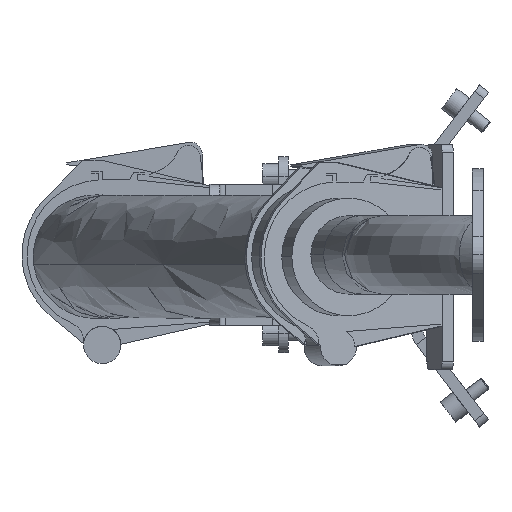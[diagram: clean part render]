
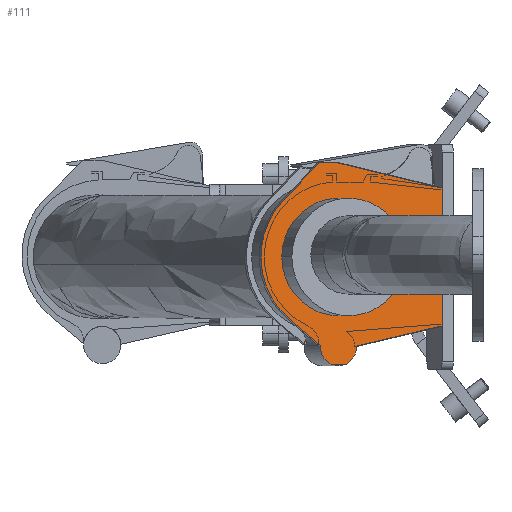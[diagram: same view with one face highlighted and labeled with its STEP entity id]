
A CAD part, left-side view. The second image highlights one B-rep face of the part: STEP entity #111.
In plain terms, the highlighted planar face has unit normal (-0.966, -0.259, 0).
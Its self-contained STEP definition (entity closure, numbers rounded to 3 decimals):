
#111 = ADVANCED_FACE ( 'NONE', ( #9734, #1788 ), #12508, .F. ) ;
#310 = ORIENTED_EDGE ( 'NONE', *, *, #11339, .F. ) ;
#658 = ORIENTED_EDGE ( 'NONE', *, *, #7273, .F. ) ;
#966 = LINE ( 'NONE', #4981, #11872 ) ;
#1073 = DIRECTION ( 'NONE',  ( -0.259, 0.966, 0. ) ) ;
#1181 = DIRECTION ( 'NONE',  ( 0.252, -0.942, 0.223 ) ) ;
#1196 = VERTEX_POINT ( 'NONE', #8875 ) ;
#1215 = LINE ( 'NONE', #5093, #4176 ) ;
#1301 = CARTESIAN_POINT ( 'NONE',  ( 1309.574, 185.556, 2172.283 ) ) ;
#1426 = CARTESIAN_POINT ( 'NONE',  ( 1316.319, 160.376, 2203.93 ) ) ;
#1538 = LINE ( 'NONE', #8136, #11689 ) ;
#1683 = ORIENTED_EDGE ( 'NONE', *, *, #10648, .F. ) ;
#1788 = FACE_BOUND ( 'NONE', #6849, .T. ) ;
#1958 = DIRECTION ( 'NONE',  ( -0.259, 0.966, 0. ) ) ;
#1984 = ORIENTED_EDGE ( 'NONE', *, *, #5225, .F. ) ;
#2150 = EDGE_CURVE ( 'NONE', #10077, #8336, #1538, .T. ) ;
#2329 = DIRECTION ( 'NONE',  ( -0.2, 0.746, 0.636 ) ) ;
#2555 = VERTEX_POINT ( 'NONE', #9729 ) ;
#2579 = CIRCLE ( 'NONE', #6517, 30. ) ;
#2594 = ORIENTED_EDGE ( 'NONE', *, *, #7910, .T. ) ;
#2624 = CARTESIAN_POINT ( 'NONE',  ( 1316.319, 160.376, 2203.93 ) ) ;
#2662 = ORIENTED_EDGE ( 'NONE', *, *, #10238, .T. ) ;
#3425 = ORIENTED_EDGE ( 'NONE', *, *, #5664, .T. ) ;
#3486 = LINE ( 'NONE', #1301, #6800 ) ;
#3573 = ORIENTED_EDGE ( 'NONE', *, *, #2150, .T. ) ;
#3755 = AXIS2_PLACEMENT_3D ( 'NONE', #12675, #3817, #10541 ) ;
#3817 = DIRECTION ( 'NONE',  ( -0.966, -0.259, 0. ) ) ;
#3838 = CARTESIAN_POINT ( 'NONE',  ( 1330.556, 107.25, 2168.63 ) ) ;
#3956 = LINE ( 'NONE', #8939, #6259 ) ;
#4176 = VECTOR ( 'NONE', #12123, 1000. ) ;
#4188 = VERTEX_POINT ( 'NONE', #6352 ) ;
#4402 = DIRECTION ( 'NONE',  ( 0., 0., -1. ) ) ;
#4429 = VERTEX_POINT ( 'NONE', #12775 ) ;
#4523 = EDGE_LOOP ( 'NONE', ( #3573, #2594, #4543, #9589, #658, #1683, #3425, #1984, #6123, #2662 ) ) ;
#4543 = ORIENTED_EDGE ( 'NONE', *, *, #12211, .T. ) ;
#4807 = LINE ( 'NONE', #5710, #8877 ) ;
#4916 = CIRCLE ( 'NONE', #5161, 9.5 ) ;
#4981 = CARTESIAN_POINT ( 'NONE',  ( 1308.772, 188.538, 2232.756 ) ) ;
#5093 = CARTESIAN_POINT ( 'NONE',  ( 1330.553, 107.25, 2239.23 ) ) ;
#5161 = AXIS2_PLACEMENT_3D ( 'NONE', #10868, #5983, #1073 ) ;
#5214 = AXIS2_PLACEMENT_3D ( 'NONE', #6694, #6885, #6758 ) ;
#5225 = EDGE_CURVE ( 'NONE', #1196, #6456, #4916, .T. ) ;
#5278 = CARTESIAN_POINT ( 'NONE',  ( 1308.772, 188.538, 2232.756 ) ) ;
#5664 = EDGE_CURVE ( 'NONE', #4188, #6456, #10895, .T. ) ;
#5687 = CARTESIAN_POINT ( 'NONE',  ( 1317.324, 156.636, 2149.255 ) ) ;
#5710 = CARTESIAN_POINT ( 'NONE',  ( 1313.729, 170.036, 2252.129 ) ) ;
#5983 = DIRECTION ( 'NONE',  ( 0.966, 0.259, 0. ) ) ;
#6123 = ORIENTED_EDGE ( 'NONE', *, *, #11420, .T. ) ;
#6259 = VECTOR ( 'NONE', #1181, 1000. ) ;
#6321 = AXIS2_PLACEMENT_3D ( 'NONE', #2624, #6771, #8576 ) ;
#6352 = CARTESIAN_POINT ( 'NONE',  ( 1315.319, 164.117, 2149.255 ) ) ;
#6456 = VERTEX_POINT ( 'NONE', #5687 ) ;
#6517 = AXIS2_PLACEMENT_3D ( 'NONE', #10834, #10773, #11748 ) ;
#6694 = CARTESIAN_POINT ( 'NONE',  ( 1316.321, 160.376, 2157.93 ) ) ;
#6758 = DIRECTION ( 'NONE',  ( -0.259, 0.966, 0. ) ) ;
#6771 = DIRECTION ( 'NONE',  ( 0.966, 0.259, 0. ) ) ;
#6800 = VECTOR ( 'NONE', #2329, 1000. ) ;
#6849 = EDGE_LOOP ( 'NONE', ( #12377, #310 ) ) ;
#6885 = DIRECTION ( 'NONE',  ( 0.966, 0.259, 0. ) ) ;
#7145 = CARTESIAN_POINT ( 'NONE',  ( 1313.729, 170.036, 2252.129 ) ) ;
#7273 = EDGE_CURVE ( 'NONE', #2555, #4429, #3486, .T. ) ;
#7399 = EDGE_CURVE ( 'NONE', #8392, #4429, #11129, .T. ) ;
#7539 = CARTESIAN_POINT ( 'NONE',  ( 1316.319, 160.376, 2203.93 ) ) ;
#7910 = EDGE_CURVE ( 'NONE', #8336, #8126, #4807, .T. ) ;
#8126 = VERTEX_POINT ( 'NONE', #7145 ) ;
#8136 = CARTESIAN_POINT ( 'NONE',  ( 1316.317, 160.376, 2252.13 ) ) ;
#8336 = VERTEX_POINT ( 'NONE', #12246 ) ;
#8392 = VERTEX_POINT ( 'NONE', #5278 ) ;
#8433 = CARTESIAN_POINT ( 'NONE',  ( 1324.084, 131.399, 2203.93 ) ) ;
#8576 = DIRECTION ( 'NONE',  ( 0., 0., -1. ) ) ;
#8875 = CARTESIAN_POINT ( 'NONE',  ( 1318.779, 151.205, 2158.239 ) ) ;
#8877 = VECTOR ( 'NONE', #1958, 1000. ) ;
#8939 = CARTESIAN_POINT ( 'NONE',  ( 1319.009, 150.344, 2158.443 ) ) ;
#9134 = CIRCLE ( 'NONE', #3755, 30. ) ;
#9167 = DIRECTION ( 'NONE',  ( -0.252, 0.94, 0.228 ) ) ;
#9307 = DIRECTION ( 'NONE',  ( -0.966, -0.259, 0. ) ) ;
#9589 = ORIENTED_EDGE ( 'NONE', *, *, #7399, .T. ) ;
#9729 = CARTESIAN_POINT ( 'NONE',  ( 1313.869, 169.529, 2158.616 ) ) ;
#9734 = FACE_OUTER_BOUND ( 'NONE', #4523, .T. ) ;
#9747 = VERTEX_POINT ( 'NONE', #3838 ) ;
#9799 = CARTESIAN_POINT ( 'NONE',  ( 1330.553, 107.25, 2239.23 ) ) ;
#10002 = DIRECTION ( 'NONE',  ( -0.182, 0.679, -0.711 ) ) ;
#10077 = VERTEX_POINT ( 'NONE', #9799 ) ;
#10238 = EDGE_CURVE ( 'NONE', #9747, #10077, #1215, .T. ) ;
#10541 = DIRECTION ( 'NONE',  ( -0.259, 0.966, 0. ) ) ;
#10648 = EDGE_CURVE ( 'NONE', #4188, #2555, #10969, .T. ) ;
#10690 = DIRECTION ( 'NONE',  ( -0.259, 0.966, 0. ) ) ;
#10708 = AXIS2_PLACEMENT_3D ( 'NONE', #1426, #9307, #4402 ) ;
#10773 = DIRECTION ( 'NONE',  ( -0.966, -0.259, 0. ) ) ;
#10834 = CARTESIAN_POINT ( 'NONE',  ( 1316.319, 160.376, 2203.93 ) ) ;
#10868 = CARTESIAN_POINT ( 'NONE',  ( 1316.321, 160.376, 2157.93 ) ) ;
#10895 = CIRCLE ( 'NONE', #11508, 54.812 ) ;
#10969 = CIRCLE ( 'NONE', #5214, 9.5 ) ;
#11022 = VERTEX_POINT ( 'NONE', #8433 ) ;
#11129 = CIRCLE ( 'NONE', #10708, 41. ) ;
#11339 = EDGE_CURVE ( 'NONE', #11763, #11022, #9134, .T. ) ;
#11420 = EDGE_CURVE ( 'NONE', #1196, #9747, #3956, .T. ) ;
#11487 = CARTESIAN_POINT ( 'NONE',  ( 1308.555, 189.354, 2203.93 ) ) ;
#11508 = AXIS2_PLACEMENT_3D ( 'NONE', #7539, #11602, #10690 ) ;
#11602 = DIRECTION ( 'NONE',  ( -0.966, -0.259, 0. ) ) ;
#11689 = VECTOR ( 'NONE', #9167, 1000. ) ;
#11748 = DIRECTION ( 'NONE',  ( -0.259, 0.966, 0. ) ) ;
#11763 = VERTEX_POINT ( 'NONE', #11487 ) ;
#11872 = VECTOR ( 'NONE', #10002, 1000. ) ;
#12123 = DIRECTION ( 'NONE',  ( 0., 0., 1. ) ) ;
#12149 = EDGE_CURVE ( 'NONE', #11022, #11763, #2579, .T. ) ;
#12211 = EDGE_CURVE ( 'NONE', #8126, #8392, #966, .T. ) ;
#12246 = CARTESIAN_POINT ( 'NONE',  ( 1316.317, 160.376, 2252.13 ) ) ;
#12377 = ORIENTED_EDGE ( 'NONE', *, *, #12149, .F. ) ;
#12508 = PLANE ( 'NONE',  #6321 ) ;
#12675 = CARTESIAN_POINT ( 'NONE',  ( 1316.319, 160.376, 2203.93 ) ) ;
#12775 = CARTESIAN_POINT ( 'NONE',  ( 1309.574, 185.556, 2172.283 ) ) ;
